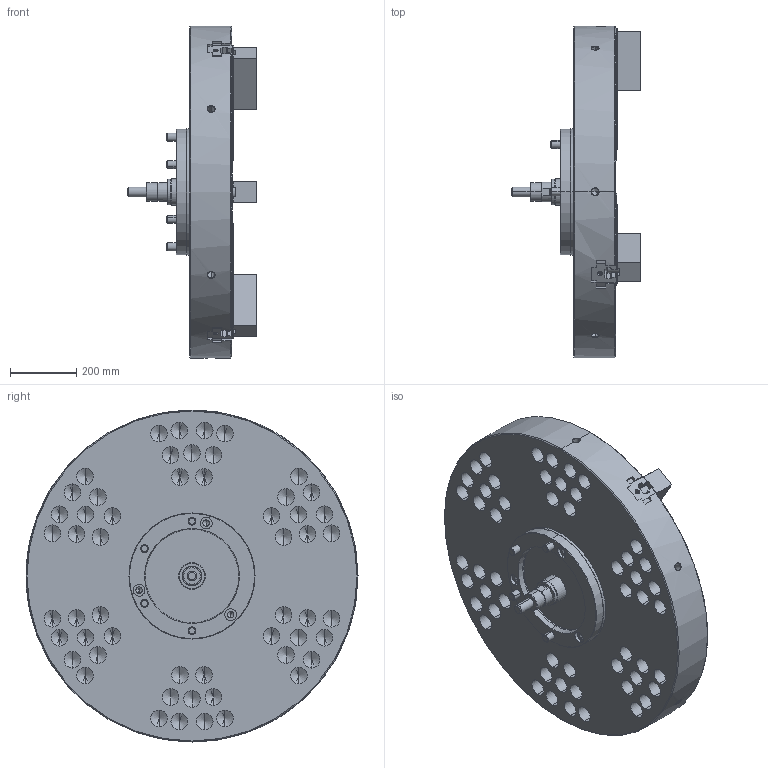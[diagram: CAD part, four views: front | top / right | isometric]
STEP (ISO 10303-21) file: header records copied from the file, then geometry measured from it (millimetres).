
FILE_DESCRIPTION (( 'STEP AP214' ), '1' );
FILE_NAME ('NV40C15_OC.STEP', '2019-12-19T23:32:17', ( '' ), ( '' ), 'SwSTEP 2.0', 'SolidWorks 2017', '' );
FILE_SCHEMA (( 'AUTOMOTIVE_DESIGN' ));
Length unit declared in the file: millimetre
Products named in the file (5): NV40C15_OC; 結合; 0030120060; 61P418538_俿僫僢僩; P32262_ソフトジョー
Assembly tree (16 placements, depth 2):
  NV40C15_OC
    P32262_ソフトジョー  x3
    61P418538_俿僫僢僩  x6
    0030120060  x6
    結合
Bounding box: 387 x 1000 x 1000 mm (x, y, z)
Volume: 97527971.4 mm3; surface area: 3152144.5 mm2
Topology: 16 solids, 16 shells, 6986 faces, 19625 edges, 12653 vertices
Faces by surface type: plane 5868, cylinder 527, cone 477, torus 108, sphere 6
Entity records: 189370 total; most frequent: CARTESIAN_POINT 36435, ORIENTED_EDGE 33010, DIRECTION 29558, EDGE_CURVE 16505, VECTOR 14556, LINE 14556, VERTEX_POINT 10764, AXIS2_PLACEMENT_3D 7501
